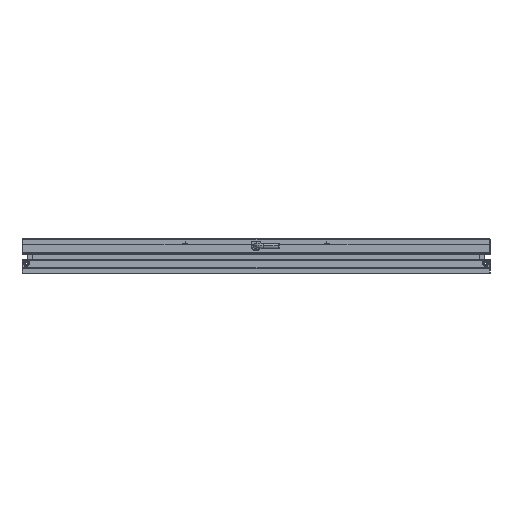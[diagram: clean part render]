
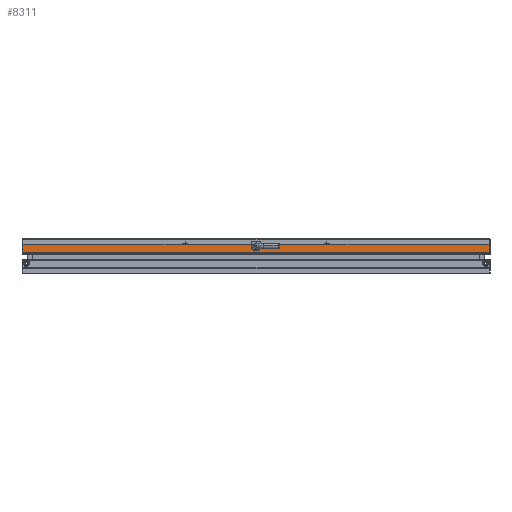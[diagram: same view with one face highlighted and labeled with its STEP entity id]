
A CAD part, left-side view. The second image highlights one B-rep face of the part: STEP entity #8311.
In plain terms, the highlighted planar face has unit normal (-1, 0, 0).
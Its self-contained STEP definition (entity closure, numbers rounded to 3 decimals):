
#39 = LINE ( 'NONE', #1053, #6820 ) ;
#82 = VECTOR ( 'NONE', #5917, 1000. ) ;
#289 = ORIENTED_EDGE ( 'NONE', *, *, #878, .F. ) ;
#294 = CARTESIAN_POINT ( 'NONE',  ( -207., 156.5, 0. ) ) ;
#641 = VERTEX_POINT ( 'NONE', #6539 ) ;
#727 = ORIENTED_EDGE ( 'NONE', *, *, #4951, .T. ) ;
#878 = EDGE_CURVE ( 'NONE', #1121, #7438, #6932, .T. ) ;
#879 = CARTESIAN_POINT ( 'NONE',  ( -207., 156.5, -6.15 ) ) ;
#1053 = CARTESIAN_POINT ( 'NONE',  ( -207., 157., -6.15 ) ) ;
#1121 = VERTEX_POINT ( 'NONE', #294 ) ;
#1144 = ORIENTED_EDGE ( 'NONE', *, *, #8360, .T. ) ;
#1216 = AXIS2_PLACEMENT_3D ( 'NONE', #7740, #7823, #1234 ) ;
#1234 = DIRECTION ( 'NONE',  ( 0., 0., 1. ) ) ;
#1314 = CARTESIAN_POINT ( 'NONE',  ( -207., -3.25, -6.15 ) ) ;
#1800 = EDGE_CURVE ( 'NONE', #7921, #7251, #4428, .T. ) ;
#1942 = VECTOR ( 'NONE', #3195, 1000. ) ;
#1943 = DIRECTION ( 'NONE',  ( 0., -1., 0. ) ) ;
#2115 = CARTESIAN_POINT ( 'NONE',  ( -207., 3.25, -6.15 ) ) ;
#2127 = VECTOR ( 'NONE', #7403, 1000. ) ;
#2316 = FACE_OUTER_BOUND ( 'NONE', #3162, .T. ) ;
#2526 = VERTEX_POINT ( 'NONE', #4562 ) ;
#2564 = DIRECTION ( 'NONE',  ( 1., 0., 0. ) ) ;
#3162 = EDGE_LOOP ( 'NONE', ( #7052, #4120, #289, #1144, #727, #7943, #5533, #7095 ) ) ;
#3195 = DIRECTION ( 'NONE',  ( 0., 0., -1. ) ) ;
#3263 = EDGE_CURVE ( 'NONE', #7251, #7438, #7291, .T. ) ;
#3703 = VERTEX_POINT ( 'NONE', #4384 ) ;
#4120 = ORIENTED_EDGE ( 'NONE', *, *, #3263, .T. ) ;
#4276 = LINE ( 'NONE', #7876, #8168 ) ;
#4384 = CARTESIAN_POINT ( 'NONE',  ( -207., -156.5, -6.15 ) ) ;
#4428 = CIRCLE ( 'NONE', #7266, 3.25 ) ;
#4562 = CARTESIAN_POINT ( 'NONE',  ( -207., -156.5, 0. ) ) ;
#4951 = EDGE_CURVE ( 'NONE', #7984, #3703, #39, .T. ) ;
#5084 = CARTESIAN_POINT ( 'NONE',  ( -207., 3.25, -0.75 ) ) ;
#5312 = CARTESIAN_POINT ( 'NONE',  ( -207., -3.25, -0.75 ) ) ;
#5533 = ORIENTED_EDGE ( 'NONE', *, *, #8421, .F. ) ;
#5776 = CARTESIAN_POINT ( 'NONE',  ( -207., 157., 0. ) ) ;
#5833 = DIRECTION ( 'NONE',  ( 0., 0., -1. ) ) ;
#5917 = DIRECTION ( 'NONE',  ( 0., 0., -1. ) ) ;
#6418 = PLANE ( 'NONE',  #1216 ) ;
#6464 = CARTESIAN_POINT ( 'NONE',  ( -207., 156.5, 0. ) ) ;
#6530 = CARTESIAN_POINT ( 'NONE',  ( -207., 0., -0.75 ) ) ;
#6539 = CARTESIAN_POINT ( 'NONE',  ( -207., -3.25, 0. ) ) ;
#6559 = VECTOR ( 'NONE', #5833, 1000. ) ;
#6722 = EDGE_CURVE ( 'NONE', #641, #7921, #8008, .T. ) ;
#6820 = VECTOR ( 'NONE', #6989, 1000. ) ;
#6932 = LINE ( 'NONE', #5776, #7028 ) ;
#6989 = DIRECTION ( 'NONE',  ( 0., -1., 0. ) ) ;
#7028 = VECTOR ( 'NONE', #7785, 1000. ) ;
#7052 = ORIENTED_EDGE ( 'NONE', *, *, #1800, .T. ) ;
#7068 = DIRECTION ( 'NONE',  ( 0., 0., -1. ) ) ;
#7095 = ORIENTED_EDGE ( 'NONE', *, *, #6722, .T. ) ;
#7251 = VERTEX_POINT ( 'NONE', #5084 ) ;
#7266 = AXIS2_PLACEMENT_3D ( 'NONE', #6530, #2564, #7068 ) ;
#7291 = LINE ( 'NONE', #2115, #2127 ) ;
#7295 = CARTESIAN_POINT ( 'NONE',  ( -207., 3.25, 0. ) ) ;
#7403 = DIRECTION ( 'NONE',  ( 0., 0., 1. ) ) ;
#7438 = VERTEX_POINT ( 'NONE', #7295 ) ;
#7740 = CARTESIAN_POINT ( 'NONE',  ( -207., 157., -6.15 ) ) ;
#7767 = EDGE_CURVE ( 'NONE', #2526, #3703, #8083, .T. ) ;
#7785 = DIRECTION ( 'NONE',  ( 0., -1., 0. ) ) ;
#7791 = LINE ( 'NONE', #6464, #6559 ) ;
#7823 = DIRECTION ( 'NONE',  ( 1., 0., 0. ) ) ;
#7876 = CARTESIAN_POINT ( 'NONE',  ( -207., 157., 0. ) ) ;
#7921 = VERTEX_POINT ( 'NONE', #5312 ) ;
#7943 = ORIENTED_EDGE ( 'NONE', *, *, #7767, .F. ) ;
#7984 = VERTEX_POINT ( 'NONE', #879 ) ;
#8008 = LINE ( 'NONE', #1314, #1942 ) ;
#8083 = LINE ( 'NONE', #8468, #82 ) ;
#8168 = VECTOR ( 'NONE', #1943, 1000. ) ;
#8311 = ADVANCED_FACE ( 'NONE', ( #2316 ), #6418, .F. ) ;
#8360 = EDGE_CURVE ( 'NONE', #1121, #7984, #7791, .T. ) ;
#8421 = EDGE_CURVE ( 'NONE', #641, #2526, #4276, .T. ) ;
#8468 = CARTESIAN_POINT ( 'NONE',  ( -207., -156.5, 0. ) ) ;
